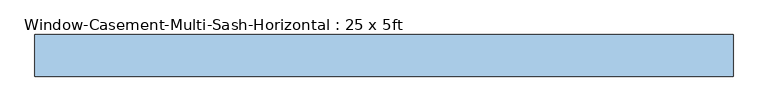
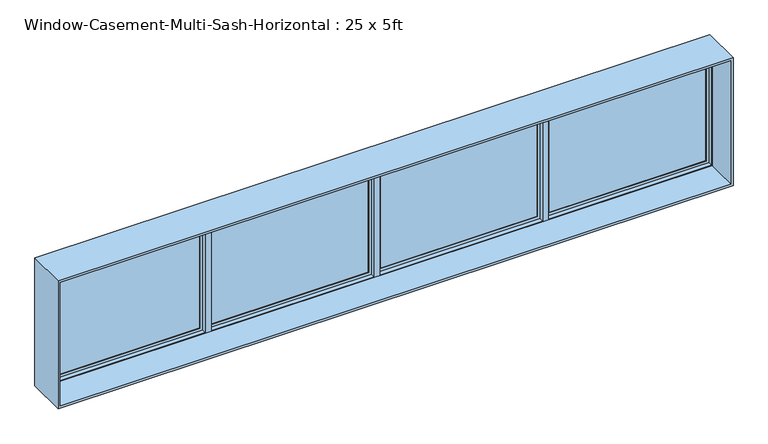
"""IFC4 building model written with IfcOpenShell, lengths in millimetres: window geometry, Window-Casement-Multi-Sash-Horizontal : 25 x 5ft."""

from ifc_helpers import new_model, si_unit, frame, origin, place, context, project, spatial, polyline, outline, extrude, faceted_brep, source, transform, mapped, element, save


def window_casement_multi_sash_horizontal_25_x_5ft_0e5d08e3(model_context):
    return source(origin(), model_context, "Body", "SolidModel", [
        extrude(outline(polyline([(2413.0, -1879.6), (939.8, -1879.6), (939.8, -25.4), (2413.0, -25.4), (2413.0, -1879.6)]), holes=[polyline([(2371.1296875, -67.2703125), (981.6703125, -67.2703125), (981.6703125, -1837.7296875), (2371.1296875, -1837.7296875), (2371.1296875, -67.2703125)])]), frame((0.0, 185.7375, 0.0), z_axis=(0.0, 1.0, 0.0), x_axis=(0.0, 0.0, 1.0)), (0.0, 0.0, 1.0), 31.75),
        extrude(outline(polyline([(2413.0, 25.4), (939.8, 25.4), (939.8, 1879.6), (2413.0, 1879.6), (2413.0, 25.4)]), holes=[polyline([(2371.1296875, 1837.7296875), (981.6703125, 1837.7296875), (981.6703125, 67.2703125), (2371.1296875, 67.2703125), (2371.1296875, 1837.7296875)])]), frame((0.0, 185.7375, 0.0), z_axis=(0.0, 1.0, 0.0), x_axis=(0.0, 0.0, 1.0)), (0.0, 0.0, 1.0), 31.75),
        faceted_brep([(-1930.4, 185.7375, 2413.0), (-3784.6, 185.7375, 2413.0), (-3784.6, 227.0125, 2413.0), (3784.6, 227.0125, 2413.0), (3784.6, 185.7375, 2413.0), (1930.4, 185.7375, 2413.0), (1930.4, 223.8375, 2413.0), (1879.6, 223.8375, 2413.0), (1879.6, 185.7375, 2413.0), (25.4, 185.7375, 2413.0), (25.4, 223.8375, 2413.0), (-25.4, 223.8375, 2413.0), (-25.4, 185.7375, 2413.0), (-1879.6, 185.7375, 2413.0), (-1879.6, 223.8375, 2413.0), (-1930.4, 223.8375, 2413.0), (-3774.4796875, 134.9375, 2402.8796875), (-3774.4796875, 185.7375, 2402.8796875), (-1940.5203125, 185.7375, 2402.8796875), (-1940.5203125, 134.9375, 2402.8796875), (3774.4796875, 185.7375, 2402.8796875), (3774.4796875, 134.9375, 2402.8796875), (1940.5203125, 134.9375, 2402.8796875), (1940.5203125, 185.7375, 2402.8796875), (-1869.4796875, 185.7375, 2402.8796875), (-35.5203125, 185.7375, 2402.8796875), (-35.5203125, 134.9375, 2402.8796875), (-1869.4796875, 134.9375, 2402.8796875), (35.5203125, 185.7375, 2402.8796875), (1869.4796875, 185.7375, 2402.8796875), (1869.4796875, 134.9375, 2402.8796875), (35.5203125, 134.9375, 2402.8796875), (-3784.6, -227.0125, 2413.0), (-3784.6, 134.9375, 2413.0), (3784.6, 134.9375, 2413.0), (3784.6, -227.0125, 2413.0), (-3810.0, 227.0125, 2438.4), (-3810.0, -227.0125, 2438.4), (3810.0, -227.0125, 2438.4), (3810.0, 227.0125, 2438.4), (3784.6, 227.0125, 939.8), (3784.6, 185.7375, 939.8), (3774.4796875, 185.7375, 949.9203125), (3774.4796875, 134.9375, 949.9203125), (3784.6, 134.9375, 939.8), (3784.6, -227.0125, 939.8), (3810.0, -227.0125, 914.4), (3810.0, 227.0125, 914.4), (1930.4, 185.7375, 939.8), (-3784.6, 227.0125, 939.8), (-3784.6, 185.7375, 939.8), (-1930.4, 185.7375, 939.8), (-1930.4, 223.8375, 939.8), (-1879.6, 223.8375, 939.8), (-1879.6, 185.7375, 939.8), (-25.4, 185.7375, 939.8), (-25.4, 223.8375, 939.8), (25.4, 223.8375, 939.8), (25.4, 185.7375, 939.8), (1879.6, 185.7375, 939.8), (1879.6, 223.8375, 939.8), (1930.4, 223.8375, 939.8), (1940.5203125, 185.7375, 949.9203125), (1940.5203125, 134.9375, 949.9203125), (-3774.4796875, 185.7375, 949.9203125), (-3774.4796875, 134.9375, 949.9203125), (-1940.5203125, 134.9375, 949.9203125), (-1940.5203125, 185.7375, 949.9203125), (-35.5203125, 185.7375, 949.9203125), (-1869.4796875, 185.7375, 949.9203125), (-1869.4796875, 134.9375, 949.9203125), (-35.5203125, 134.9375, 949.9203125), (1869.4796875, 185.7375, 949.9203125), (35.5203125, 185.7375, 949.9203125), (35.5203125, 134.9375, 949.9203125), (1869.4796875, 134.9375, 949.9203125), (-3784.6, 134.9375, 939.8), (-3784.6, -227.0125, 939.8), (-3810.0, -227.0125, 914.4), (-3810.0, 227.0125, 914.4)], [[[0, 1, 2, 3, 4, 5, 6, 7, 8, 9, 10, 11, 12, 13, 14, 15]], [[16, 17, 18, 19]], [[20, 21, 22, 23]], [[24, 25, 26, 27]], [[28, 29, 30, 31]], [[32, 33, 34, 35]], [[36, 37, 38, 39]], [[4, 3, 40, 41]], [[21, 20, 42, 43]], [[35, 34, 44, 45]], [[39, 38, 46, 47]], [[48, 41, 40, 49, 50, 51, 52, 53, 54, 55, 56, 57, 58, 59, 60, 61]], [[43, 42, 62, 63]], [[64, 65, 66, 67]], [[68, 69, 70, 71]], [[72, 73, 74, 75]], [[45, 44, 76, 77]], [[47, 46, 78, 79]], [[2, 1, 50, 49]], [[4, 41, 48, 5], [20, 23, 62, 42]], [[50, 1, 0, 51], [64, 67, 18, 17]], [[12, 55, 54, 13], [69, 68, 25, 24]], [[8, 59, 58, 9], [73, 72, 29, 28]], [[17, 16, 65, 64]], [[44, 34, 33, 76], [16, 19, 66, 65], [27, 26, 71, 70], [31, 30, 75, 74], [21, 43, 63, 22]], [[33, 32, 77, 76]], [[38, 37, 78, 46], [32, 35, 45, 77]], [[37, 36, 79, 78]], [[36, 39, 47, 79], [3, 2, 49, 40]], [[18, 67, 66, 19]], [[69, 24, 27, 70]], [[53, 14, 13, 54]], [[14, 53, 52, 15]], [[15, 52, 51, 0]], [[25, 68, 71, 26]], [[73, 28, 31, 74]], [[57, 10, 9, 58]], [[10, 57, 56, 11]], [[11, 56, 55, 12]], [[6, 61, 60, 7]], [[7, 60, 59, 8]], [[29, 72, 75, 30]], [[62, 23, 22, 63]], [[61, 6, 5, 48]]]),
        extrude(outline(polyline([(-67.2703125, 211.1375), (-67.2703125, 204.7875), (-1837.7296875, 204.7875), (-1837.7296875, 211.1375), (-67.2703125, 211.1375)])), frame((0.0, 0.0, 981.6703125), z_axis=(0.0, 0.0, 1.0), x_axis=(1.0, 0.0, 0.0)), (0.0, 0.0, 1.0), 1389.459375),
        extrude(outline(polyline([(-67.2703125, 198.4375), (-67.2703125, 192.0875), (-1837.7296875, 192.0875), (-1837.7296875, 198.4375), (-67.2703125, 198.4375)])), frame((0.0, 0.0, 981.6703125), z_axis=(0.0, 0.0, 1.0), x_axis=(1.0, 0.0, 0.0)), (0.0, 0.0, 1.0), 1389.459375),
        extrude(outline(polyline([(1837.7296875, 211.1375), (1837.7296875, 204.7875), (67.2703125, 204.7875), (67.2703125, 211.1375), (1837.7296875, 211.1375)])), frame((0.0, 0.0, 981.6703125), z_axis=(0.0, 0.0, 1.0), x_axis=(1.0, 0.0, 0.0)), (0.0, 0.0, 1.0), 1389.459375),
        extrude(outline(polyline([(1837.7296875, 198.4375), (1837.7296875, 192.0875), (67.2703125, 192.0875), (67.2703125, 198.4375), (1837.7296875, 198.4375)])), frame((0.0, 0.0, 981.6703125), z_axis=(0.0, 0.0, 1.0), x_axis=(1.0, 0.0, 0.0)), (0.0, 0.0, 1.0), 1389.459375),
        extrude(outline(polyline([(-1972.2703125, 211.1375), (-1972.2703125, 204.7875), (-3742.7296875, 204.7875), (-3742.7296875, 211.1375), (-1972.2703125, 211.1375)])), frame((0.0, 0.0, 981.6703125), z_axis=(0.0, 0.0, 1.0), x_axis=(1.0, 0.0, 0.0)), (0.0, 0.0, 1.0), 1389.459375),
        extrude(outline(polyline([(-1972.2703125, 198.4375), (-1972.2703125, 192.0875), (-3742.7296875, 192.0875), (-3742.7296875, 198.4375), (-1972.2703125, 198.4375)])), frame((0.0, 0.0, 981.6703125), z_axis=(0.0, 0.0, 1.0), x_axis=(1.0, 0.0, 0.0)), (0.0, 0.0, 1.0), 1389.459375),
        extrude(outline(polyline([(3742.7296875, 211.1375), (3742.7296875, 204.7875), (1972.2703125, 204.7875), (1972.2703125, 211.1375), (3742.7296875, 211.1375)])), frame((0.0, 0.0, 981.6703125), z_axis=(0.0, 0.0, 1.0), x_axis=(1.0, 0.0, 0.0)), (0.0, 0.0, 1.0), 1389.459375),
        extrude(outline(polyline([(3742.7296875, 198.4375), (3742.7296875, 192.0875), (1972.2703125, 192.0875), (1972.2703125, 198.4375), (3742.7296875, 198.4375)])), frame((0.0, 0.0, 981.6703125), z_axis=(0.0, 0.0, 1.0), x_axis=(1.0, 0.0, 0.0)), (0.0, 0.0, 1.0), 1389.459375),
        extrude(outline(polyline([(2413.0, -3784.6), (939.8, -3784.6), (939.8, -1930.4), (2413.0, -1930.4), (2413.0, -3784.6)]), holes=[polyline([(2371.1296875, -1972.2703125), (981.6703125, -1972.2703125), (981.6703125, -3742.7296875), (2371.1296875, -3742.7296875), (2371.1296875, -1972.2703125)])]), frame((0.0, 185.7375, 0.0), z_axis=(0.0, 1.0, 0.0), x_axis=(0.0, 0.0, 1.0)), (0.0, 0.0, 1.0), 31.75),
        extrude(outline(polyline([(2413.0, 1930.4), (939.8, 1930.4), (939.8, 3784.6), (2413.0, 3784.6), (2413.0, 1930.4)]), holes=[polyline([(2371.1296875, 3742.7296875), (981.6703125, 3742.7296875), (981.6703125, 1972.2703125), (2371.1296875, 1972.2703125), (2371.1296875, 3742.7296875)])]), frame((0.0, 185.7375, 0.0), z_axis=(0.0, 1.0, 0.0), x_axis=(0.0, 0.0, 1.0)), (0.0, 0.0, 1.0), 31.75),
    ])


if __name__ == "__main__":
    model = new_model("IFC4")
    model_context = context("Model", 3, world=origin())
    ifc_project = project(units=[si_unit("LENGTHUNIT", "METRE", prefix="MILLI")], contexts=[model_context])
    site = spatial("IfcSite", under=ifc_project)
    building = spatial("IfcBuilding", under=site)
    placement = place(None, origin())
    window_casement_multi_sash_horizontal_25_x_5ft_shape = window_casement_multi_sash_horizontal_25_x_5ft_0e5d08e3(model_context)
    element("IfcWindow", 1, ObjectType="Window-Casement-Multi-Sash-Horizontal : 25 x 5ft", at=placement, inside=building, context=model_context, shape_type="MappedRepresentation", body=[
        mapped(window_casement_multi_sash_horizontal_25_x_5ft_shape, transform((0.0, 0.0, 0.0), x_axis=(1.0, 0.0, 0.0), y_axis=(0.0, 1.0, 0.0), z_axis=(0.0, 0.0, 1.0))),
    ])
    save(model, "model.ifc")
